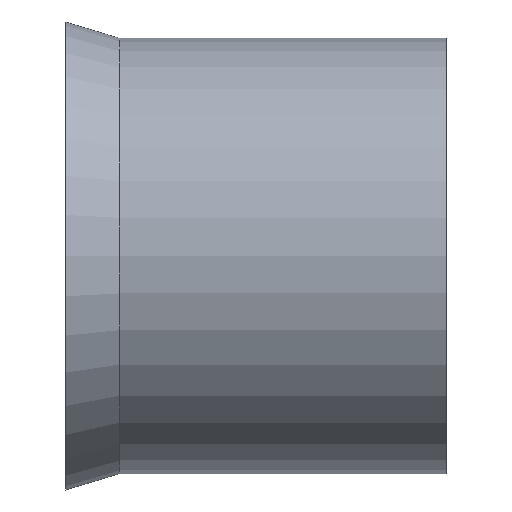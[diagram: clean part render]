
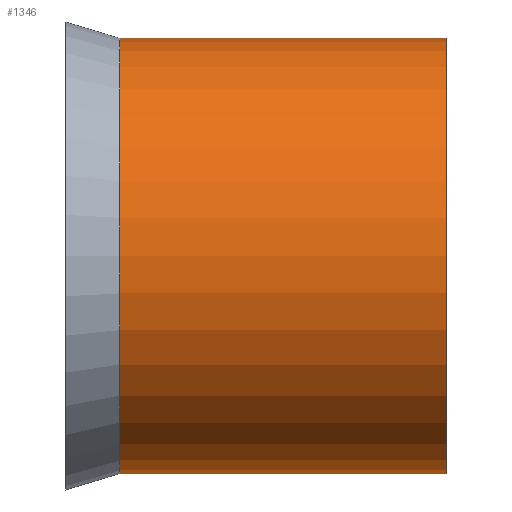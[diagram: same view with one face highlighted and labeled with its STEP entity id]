
A CAD part, top view. The second image highlights one B-rep face of the part: STEP entity #1346.
In plain terms, the highlighted cylindrical face has radius 2 mm (diameter 4 mm), a partial arc.
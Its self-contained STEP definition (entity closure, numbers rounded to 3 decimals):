
#1=DIRECTION('',(-1.,0.,0.));
#2=VECTOR('',#1,3.);
#3=CARTESIAN_POINT('',(3.5,2.,0.));
#4=LINE('',#3,#2);
#5=DIRECTION('',(-1.,0.,0.));
#6=VECTOR('',#5,3.);
#7=CARTESIAN_POINT('',(3.5,-2.,0.));
#8=LINE('',#7,#6);
#14=CARTESIAN_POINT('',(3.5,0.,0.));
#15=DIRECTION('',(1.,0.,0.));
#16=DIRECTION('',(0.,1.,0.));
#17=AXIS2_PLACEMENT_3D('',#14,#15,#16);
#19=CARTESIAN_POINT('',(0.5,0.,0.));
#20=DIRECTION('',(1.,0.,0.));
#21=DIRECTION('',(0.,1.,0.));
#22=AXIS2_PLACEMENT_3D('',#19,#20,#21);
#983=CARTESIAN_POINT('',(3.5,2.,0.));
#984=CARTESIAN_POINT('',(0.5,2.,0.));
#985=VERTEX_POINT('',#983);
#986=VERTEX_POINT('',#984);
#989=CARTESIAN_POINT('',(3.5,-2.,0.));
#990=CARTESIAN_POINT('',(0.5,-2.,0.));
#991=VERTEX_POINT('',#989);
#992=VERTEX_POINT('',#990);
#1334=CARTESIAN_POINT('',(-0.175,0.,0.));
#1335=DIRECTION('',(1.,0.,0.));
#1336=DIRECTION('',(0.,-1.,0.));
#1337=AXIS2_PLACEMENT_3D('',#1334,#1335,#1336);
#1338=CYLINDRICAL_SURFACE('',#1337,2.);
#1339=ORIENTED_EDGE('',*,*,#1324,.F.);
#1340=ORIENTED_EDGE('',*,*,#1314,.T.);
#1341=ORIENTED_EDGE('',*,*,#1328,.T.);
#1343=ORIENTED_EDGE('',*,*,#1342,.F.);
#1344=EDGE_LOOP('',(#1339,#1340,#1341,#1343));
#1345=FACE_OUTER_BOUND('',#1344,.F.);
#1346=ADVANCED_FACE('',(#1345),#1338,.T.);
#18=CIRCLE('',#17,2.);
#23=CIRCLE('',#22,2.);
#1314=EDGE_CURVE('',#985,#991,#18,.T.);
#1324=EDGE_CURVE('',#985,#986,#4,.T.);
#1328=EDGE_CURVE('',#991,#992,#8,.T.);
#1342=EDGE_CURVE('',#986,#992,#23,.T.);
